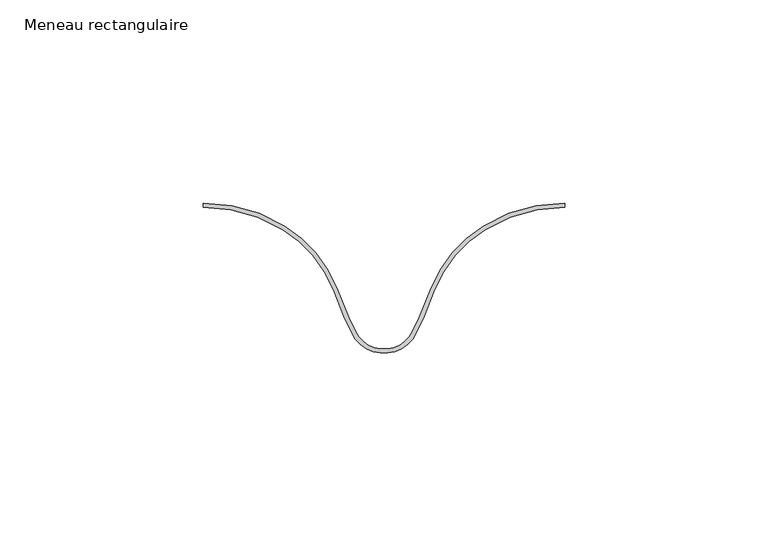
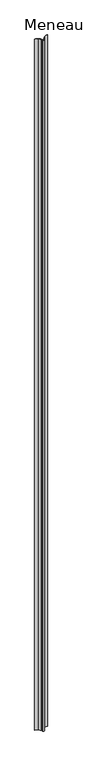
"""IFC4 building model written with IfcOpenShell, lengths in millimetres: member geometry, Meneau rectangulaire : Regolare 800."""

import ifcopenshell
import ifcopenshell.guid

model = None  # the IFC model being written
_history = None  # IfcOwnerHistory: only IFC2X3 demands one
_inside = {}  # id of a spatial element -> (the spatial element, [elements in it])
_under = {}  # id of a project, library or spatial element -> (it, [spatial elements below it])
_declared = {}  # id of a project -> (the project, [libraries it declares])
_typed = {}  # id of a type object -> (the type object, [elements of that type])
_made_of = {}  # id of a material, layer set ... -> (it, [elements and type objects made of it])


def new_model(schema):
    """Start an empty IFC model of exactly this schema.

    Asked for "IFC4X3", IfcOpenShell would pick the latest addendum, in which some entities
    have other attributes; the version numbers below select the first issue.
    IFC2X3 requires an IfcOwnerHistory on every rooted entity: one is made here for all.
    """
    global model, _history
    if schema == "IFC4X3":
        model = ifcopenshell.file(schema_version=(4, 3, 0, 0))
    else:
        model = ifcopenshell.file(schema=schema)
    _inside.clear()
    _under.clear()
    _declared.clear()
    _typed.clear()
    _made_of.clear()
    _history = None
    if model.schema == "IFC2X3":
        org = make("IfcOrganization", Name="unknown")
        user = make(
            "IfcPersonAndOrganization",
            ThePerson=make("IfcPerson", FamilyName="unknown"),
            TheOrganization=org,
        )
        app = make(
            "IfcApplication",
            ApplicationDeveloper=org,
            Version="unknown",
            ApplicationFullName="unknown",
            ApplicationIdentifier="unknown",
        )
        _history = make(
            "IfcOwnerHistory",
            OwningUser=user,
            OwningApplication=app,
            ChangeAction="ADDED",
            CreationDate=0,
        )
    return model


def make(cls, **values):
    """One entity of the class cls with the attributes given. An attribute that is None is left unset."""
    return model.create_entity(
        cls, **{name: value for name, value in values.items() if value is not None}
    )


def rooted(cls, **values):
    """An entity with a GlobalId (a new one), such as an element, a storey or a relation."""
    return make(cls, GlobalId=ifcopenshell.guid.new(), OwnerHistory=_history, **values)


def si_unit(unit_type, name, prefix=None):
    """IfcSIUnit, for example si_unit("LENGTHUNIT", "METRE", prefix="MILLI")."""
    return make("IfcSIUnit", UnitType=unit_type, Prefix=prefix, Name=name)


def assignment(units):
    """IfcUnitAssignment: the units of a project."""
    return None if units is None else make("IfcUnitAssignment", Units=units)


def point(xyz):
    """IfcCartesianPoint."""
    return None if xyz is None else make("IfcCartesianPoint", Coordinates=xyz)


def direction(xyz):
    """IfcDirection."""
    return None if xyz is None else make("IfcDirection", DirectionRatios=xyz)


def frame(location, z_axis=None, x_axis=None):
    """IfcAxis2Placement3D, a coordinate frame: its origin and axes. An axis left out is left unset."""
    return make(
        "IfcAxis2Placement3D",
        Location=point(location),
        Axis=direction(z_axis),
        RefDirection=direction(x_axis),
    )


def frame_2d(location, x_axis=None):
    """IfcAxis2Placement2D, a coordinate frame in the plane: its origin and x axis."""
    return make(
        "IfcAxis2Placement2D", Location=point(location), RefDirection=direction(x_axis)
    )


def origin():
    """The frame at (0, 0, 0) with its axes left unset."""
    return frame((0.0, 0.0, 0.0))


def place(relative_to, where):
    """IfcLocalPlacement: puts the frame where relative to a parent placement (None: the world)."""
    return make(
        "IfcLocalPlacement", PlacementRelTo=relative_to, RelativePlacement=where
    )


def context(
    kind, dimensions, precision=None, world=None, true_north=None, identifier=None
):
    """IfcGeometricRepresentationContext, for example the 3D "Model" context."""
    return make(
        "IfcGeometricRepresentationContext",
        ContextIdentifier=identifier,
        ContextType=kind,
        CoordinateSpaceDimension=dimensions,
        Precision=precision,
        WorldCoordinateSystem=world,
        TrueNorth=true_north,
    )


def project(units=None, contexts=None):
    """IfcProject with its units and contexts."""
    return rooted(
        "IfcProject",
        Name="project",
        RepresentationContexts=contexts,
        UnitsInContext=assignment(units),
    )


def spatial(cls, under=None, at=None, **own):
    """A site, building, storey or space (cls), placed at a placement, below another one or the project."""
    s = rooted(cls, ObjectPlacement=at, **own)
    if under is not None:
        _under.setdefault(under.id(), (under, []))[1].append(s)
    return s


def polyline(points):
    """IfcPolyline through the points."""
    return make("IfcPolyline", Points=[point(p) for p in points])


def circle_curve(where, radius):
    """IfcCircle in the frame where."""
    return make("IfcCircle", Position=where, Radius=radius)


def trimmed(basis, trim1, trim2, sense, master):
    """IfcTrimmedCurve: the piece of a basis curve between two trims."""
    return make(
        "IfcTrimmedCurve",
        BasisCurve=basis,
        Trim1=trim1,
        Trim2=trim2,
        SenseAgreement=sense,
        MasterRepresentation=master,
    )


def segment(curve, same_sense, transition):
    """IfcCompositeCurveSegment."""
    return make(
        "IfcCompositeCurveSegment",
        Transition=transition,
        SameSense=same_sense,
        ParentCurve=curve,
    )


def composite_curve(segments, self_intersect=None):
    """IfcCompositeCurve: segments joined end to end."""
    return make("IfcCompositeCurve", Segments=segments, SelfIntersect=self_intersect)


def outline(outer, holes=None, kind="AREA"):
    """IfcArbitraryClosedProfileDef: a profile drawn as a closed curve; with holes, ...WithVoids."""
    if holes is None:
        return make("IfcArbitraryClosedProfileDef", ProfileType=kind, OuterCurve=outer)
    return make(
        "IfcArbitraryProfileDefWithVoids",
        ProfileType=kind,
        OuterCurve=outer,
        InnerCurves=holes,
    )


def extrude(swept, where, along, depth):
    """IfcExtrudedAreaSolid: the profile swept, set in the frame where, extruded along a direction by depth."""
    return make(
        "IfcExtrudedAreaSolid",
        SweptArea=swept,
        Position=where,
        ExtrudedDirection=direction(along),
        Depth=depth,
    )


def shape(context_of_items, identifier, shape_type, items):
    """IfcShapeRepresentation: the items that make up one representation, for example the "Body"."""
    return make(
        "IfcShapeRepresentation",
        ContextOfItems=context_of_items,
        RepresentationIdentifier=identifier,
        RepresentationType=shape_type,
        Items=items,
    )


def source(mapping_origin, context_of_items, identifier, shape_type, items):
    """IfcRepresentationMap: a shape defined once, which mapped items show again and again."""
    return make(
        "IfcRepresentationMap",
        MappingOrigin=mapping_origin,
        MappedRepresentation=shape(context_of_items, identifier, shape_type, items),
    )


def transform(
    local_origin,
    x_axis=None,
    y_axis=None,
    z_axis=None,
    scale=None,
    scale2=None,
    scale3=None,
    uniform=True,
):
    """IfcCartesianTransformationOperator3D, or its non-uniform kind. x_axis, y_axis, z_axis: its Axis1, 2, 3."""
    if uniform:
        return make(
            "IfcCartesianTransformationOperator3D",
            Axis1=direction(x_axis),
            Axis2=direction(y_axis),
            LocalOrigin=point(local_origin),
            Scale=scale,
            Axis3=direction(z_axis),
        )
    return make(
        "IfcCartesianTransformationOperator3DnonUniform",
        Axis1=direction(x_axis),
        Axis2=direction(y_axis),
        LocalOrigin=point(local_origin),
        Scale=scale,
        Axis3=direction(z_axis),
        Scale2=scale2,
        Scale3=scale3,
    )


def mapped(mapping_source, mapping_target):
    """IfcMappedItem: shows the shape of a source again, moved by a transform."""
    return make(
        "IfcMappedItem", MappingSource=mapping_source, MappingTarget=mapping_target
    )


def made_of(thing, what):
    """Note that an element or type object is made of a material, layer set ...; save() writes the relation."""
    if what is not None:
        _made_of.setdefault(what.id(), (what, []))[1].append(thing)
    return thing


def element(
    cls,
    number,
    at=None,
    inside=None,
    cuts=None,
    type_object=None,
    material=None,
    context=None,
    identifier="Body",
    shape_type=None,
    held_by="IfcProductDefinitionShape",
    body=None,
    shapes=None,
    **own,
):
    """One element of the class cls, such as IfcWall. Its Tag is "e" and its number.

    at: its placement. inside: the storey or other place that contains it. cuts: it is an
    opening in that element (IfcRelVoidsElement). A single representation is given by context,
    identifier, shape_type and body (its items); several are given by shapes. held_by: the class
    of the entity that holds the representations. save() writes the other relations.
    """
    e = rooted(cls, Tag="e%d" % number, ObjectPlacement=at, **own)
    if body is not None:
        shapes = [shape(context, identifier, shape_type, body)]
    if shapes is not None:
        e.Representation = make(held_by, Representations=shapes)
    if inside is not None:
        _inside.setdefault(inside.id(), (inside, []))[1].append(e)
    if cuts is not None:
        rooted(
            "IfcRelVoidsElement", RelatingBuildingElement=cuts, RelatedOpeningElement=e
        )
    if type_object is not None:
        _typed.setdefault(type_object.id(), (type_object, []))[1].append(e)
    return made_of(e, material)


def aggregate(whole, parts):
    """IfcRelAggregates: a whole, such as a stair, and the parts it consists of."""
    return rooted("IfcRelAggregates", RelatingObject=whole, RelatedObjects=parts)


def save(model, path):
    """Write the relations noted so far, then the file.

    IfcRelAggregates (storeys below a building ...), IfcRelContainedInSpatialStructure (elements
    in a storey), IfcRelDefinesByType, IfcRelAssociatesMaterial and IfcRelDeclares: one each for
    every whole, place, type object, material and project.
    """
    for whole, parts in _under.values():
        aggregate(whole, parts)
    for where, things in _inside.values():
        rooted(
            "IfcRelContainedInSpatialStructure",
            RelatedElements=things,
            RelatingStructure=where,
        )
    for kind, things in _typed.values():
        rooted("IfcRelDefinesByType", RelatedObjects=things, RelatingType=kind)
    for what, things in _made_of.values():
        rooted("IfcRelAssociatesMaterial", RelatedObjects=things, RelatingMaterial=what)
    for by, libraries in _declared.values():
        rooted("IfcRelDeclares", RelatingContext=by, RelatedDefinitions=libraries)
    model.write(path)


def meneau_rectangulaire_d1d4f6c5(model_context):
    return source(origin(), model_context, "Body", "SweptSolid", [
        extrude(outline(composite_curve([segment(trimmed(circle_curve(frame_2d((40.9600993, 4.3198001)), 30.6166783), [point((24.9849944, 30.4383187))], [point((12.5330095, 15.6900047))], True, "CARTESIAN"), True, "CONTINUOUS"), segment(polyline([(12.5330095, 15.6900047), (9.6514235, 8.4956098), (7.9907988, 5.0311277)]), True, "CONTINUOUS"), segment(trimmed(circle_curve(frame_2d((0.0, 8.8613445)), 8.8613445), [point((7.9907988, 5.0311277))], [point((-7.9907988, 5.0311277))], False, "CARTESIAN"), True, "CONTINUOUS"), segment(polyline([(-7.9907988, 5.0311277), (-9.6514235, 8.4956098), (-12.5330095, 15.6900047)]), True, "CONTINUOUS"), segment(trimmed(circle_curve(frame_2d((-40.9600993, 4.3198001)), 30.6166783), [point((-12.5330095, 15.6900047))], [point((-24.9849944, 30.4383187))], True, "CARTESIAN"), True, "CONTINUOUS"), segment(trimmed(circle_curve(frame_2d((-44.5257445, -1.5098563)), 37.4503244), [point((-24.9849944, 30.4383187))], [point((-44.5257445, 35.9404682))], True, "CARTESIAN"), True, "CONTINUOUS"), segment(polyline([(-44.5257445, 35.9404682), (-44.5257445, 36.9404682)]), True, "CONTINUOUS"), segment(trimmed(circle_curve(frame_2d((-44.5257445, -1.5098563)), 38.4503244), [point((-44.5257445, 36.9404682))], [point((-24.4632165, 31.2914001))], False, "CARTESIAN"), True, "CONTINUOUS"), segment(trimmed(circle_curve(frame_2d((-40.9600993, 4.3198001)), 31.6166783), [point((-24.4632165, 31.2914001))], [point((-11.6046151, 16.0616012))], False, "CARTESIAN"), True, "CONTINUOUS"), segment(polyline([(-11.6046151, 16.0616012), (-8.7353934, 8.8980757), (-7.0890396, 5.4633665)]), True, "CONTINUOUS"), segment(trimmed(circle_curve(frame_2d((0.0, 8.8613445)), 7.8613445), [point((-7.0890396, 5.4633665))], [point((7.0890396, 5.4633665))], True, "CARTESIAN"), True, "CONTINUOUS"), segment(polyline([(7.0890396, 5.4633665), (8.7353934, 8.8980757), (11.6046151, 16.0616012)]), True, "CONTINUOUS"), segment(trimmed(circle_curve(frame_2d((40.9600993, 4.3198001)), 31.6166783), [point((11.6046151, 16.0616012))], [point((24.4632165, 31.2914001))], False, "CARTESIAN"), True, "CONTINUOUS"), segment(trimmed(circle_curve(frame_2d((44.5257445, -1.5098563)), 38.4503244), [point((24.4632165, 31.2914001))], [point((44.5257445, 36.9404682))], False, "CARTESIAN"), True, "CONTINUOUS"), segment(polyline([(44.5257445, 36.9404682), (44.5257445, 35.9404682)]), True, "CONTINUOUS"), segment(trimmed(circle_curve(frame_2d((44.5257445, -1.5098563)), 37.4503244), [point((44.5257445, 35.9404682))], [point((24.9849944, 30.4383187))], True, "CARTESIAN"), True, "CONTINUOUS")], self_intersect=False)), frame((0.0, 0.0, -5176.3809021), z_axis=(0.0, 0.0, 1.0), x_axis=(1.0, 0.0, 0.0)), (0.0, 0.0, 1.0), 5176.3809021),
    ])


if __name__ == "__main__":
    model = new_model("IFC4")
    model_context = context("Model", 3, world=origin())
    ifc_project = project(units=[si_unit("LENGTHUNIT", "METRE", prefix="MILLI")], contexts=[model_context])
    site = spatial("IfcSite", under=ifc_project)
    building = spatial("IfcBuilding", under=site)
    placement = place(None, origin())
    meneau_rectangulaire_shape = meneau_rectangulaire_d1d4f6c5(model_context)
    element("IfcMember", 1, ObjectType="Meneau rectangulaire : Regolare 800", at=placement, inside=building, context=model_context, shape_type="MappedRepresentation", body=[
        mapped(meneau_rectangulaire_shape, transform((0.0, 0.0, 0.0), x_axis=(1.0, 0.0, 0.0), y_axis=(0.0, 1.0, 0.0), z_axis=(0.0, 0.0, 1.0))),
    ])
    save(model, "model.ifc")
